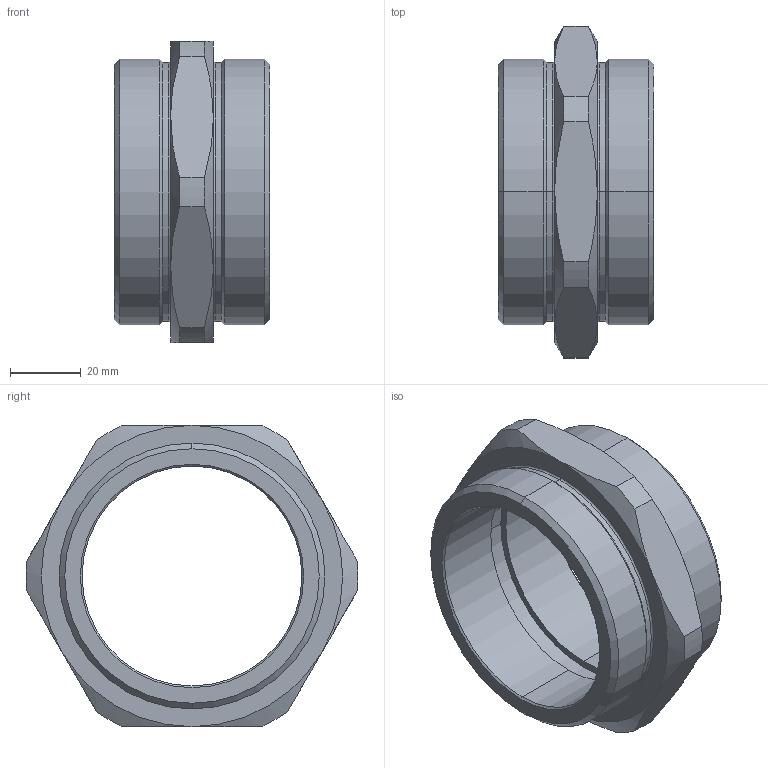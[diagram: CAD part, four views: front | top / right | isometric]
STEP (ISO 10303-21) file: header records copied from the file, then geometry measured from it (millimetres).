
FILE_DESCRIPTION (( 'STEP AP203' ), '1' );
FILE_NAME ('ﾍﾂﾍ7Mﾍ.STEP', '2019-06-05T11:21:28', ( '' ), ( '' ), 'SwSTEP 2.0', 'SolidWorks 2012', '' );
FILE_SCHEMA (( 'CONFIG_CONTROL_DESIGN' ));
Length unit declared in the file: millimetre
Products named in the file (1): ﾍﾂﾍ7Mﾍ
Bounding box: 44 x 93.66 x 85 mm (x, y, z)
Volume: 77691.9 mm3; surface area: 26237.8 mm2
Topology: 1 solids, 1 shells, 60 faces, 130 edges, 76 vertices
Faces by surface type: cone 24, cylinder 20, plane 12, torus 4
Entity records: 1843 total; most frequent: CARTESIAN_POINT 451, DIRECTION 296, ORIENTED_EDGE 260, EDGE_CURVE 130, AXIS2_PLACEMENT_3D 129, VERTEX_POINT 76, CIRCLE 68, EDGE_LOOP 66
